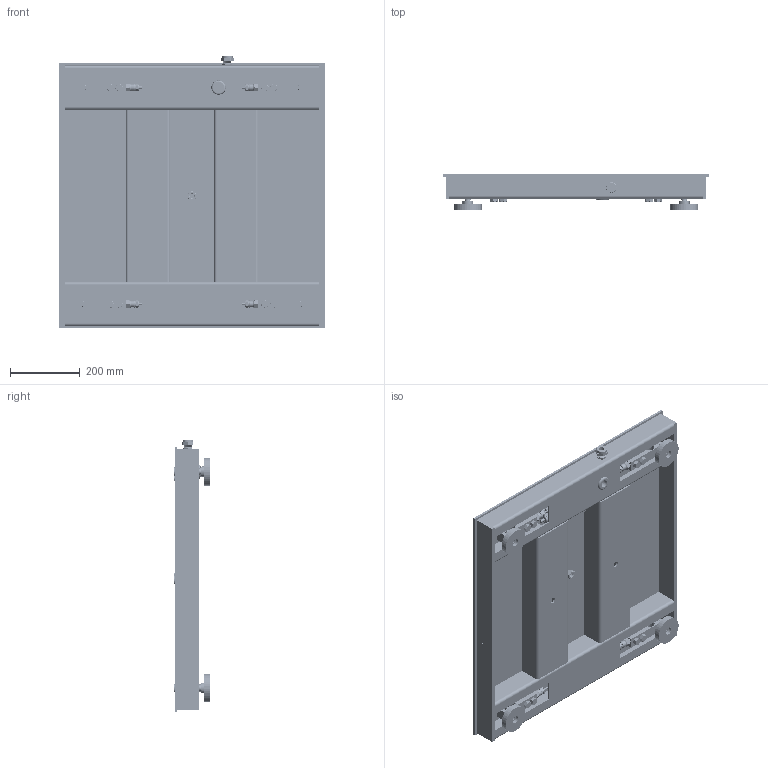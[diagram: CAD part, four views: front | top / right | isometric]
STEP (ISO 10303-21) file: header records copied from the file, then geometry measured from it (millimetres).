
FILE_DESCRIPTION (( 'STEP AP214' ), '1' );
FILE_NAME ('HIFS-3030 Series.STEP', '2019-10-17T17:06:02', ( '' ), ( '' ), 'SwSTEP 2.0', 'SolidWorks 2017', '' );
FILE_SCHEMA (( 'AUTOMOTIVE_DESIGN' ));
Length unit declared in the file: inch
Products named in the file (59): 900-100111; 0508-0918-001_ENCLOSURE; 5504-0012 threaded insert; 900-100128; smkds_1-9-3.5; HP-00007_SS; Pin 4-6362E-1 Rubber Foot; 2814-0095-0; 900-100115; 0529-0024-01-0; blind standoff_pmm_PEM BSO4-M3-6; 5504-0012; HI SBHF14-500-CELL; 0530-0825-01-0; 0530-0852-01-0; 0508-0918-001_ENCLOSURE ASSY; 2817-0188; 100-93838; 5504-0012 Rubber; HI SBHF14-500; Hex Nut - 5_8 - 11_SS; 2818-0128-0_91287A010; Gland; 91800A236_91800A236; HM-SS-500_SS; pan cross head_ai_CR-PHMS 0.138-32x0.25x0.25-C; Socket Countersunk Head Cap Screw - 1_4 - 20_0.75 SS; 6007-0097-0; PEM BSO4-632-10; HP-00012; 100-80340_SS; Adapter Nut; HP-00026_SS; flat washer type a selected narrow_ai_Selected Narrow FW 0.156; HIFS-3030 Series; 100-83367; Cable Adapter Nut; Mini Cable; Hex Bolt - 1_2 - 20_2.25 SS; 0508-0918-003_COVER_Default<As Machined>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
Assembly tree (107 placements, depth 6):
  HIFS-3030 Series
    100-93838
    HP-00026_SS
    100-80340_SS  x2
    100-82172_SS Smooth
    Socket Countersunk Head Cap Screw - 1_4 - 20_0.75 SS  x2
    Hex Nut - 5_8 - 11_SS
    HP-00012
    HP-00013
    100-83366  x2
    100-83367  x2
    0530-0825-01-0  x3
    900-100111
    800-000166
    900-100115
    900-100128  x5
    HM-SS-500_SS  x4
      HP-00007_SS
      HI SBHF14-500
        Mini Cable Adapter
          Mini Cable
          Gland
          Cable Adapter Nut
            Adapter Nut
          Cable Adapter
        HI SBHF14-500-CELL
      Hex Bolt - 1_2 - 20_2.25 SS
      5504-0012
        Pin 4-6362E-1 Rubber Foot
        93625A150_93625A150
        91800A236_91800A236
        ORING
        5504-0012 foot insert
        5504-0012 Rubber
        5504-0012 threaded insert
      HP-00003_SS
    HI 6011 ASSEMBLY
      0508-0918-01_ENCLOSURE ASSY
        0508-0918-001_ENCLOSURE ASSY
          0508-0918-001_ENCLOSURE
          blind standoff_pmm_PEM BSO4-M3-6  x8
          PEM BSO4-632-10  x4
        0508-0918-003_COVER_Default<As Machined>
        0508-0918-002_PLATE
      0524-0038-01-0
      0535-0575-XX-0 PWA
        0534-0575-01-0 PWB
        Phoenix_1751141
          smkds_1-7-3.5
        smkds_1-7-3.5  x3
        Phoenix_1751167
          smkds_1-9-3.5
      2817-0188  x4
        flat washer type a selected narrow_ai_Selected Narrow FW 0.156
        pan cross head_ai_CR-PHMS 0.138-32x0.25x0.25-C
      0529-0024-01-0  x5
      6007-0097-0  x5
      2814-0095-0  x5
      2818-0128-0_91287A010  x8
      0530-0852-01-0
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Bounding box: 762 x 102.3 x 784.23 mm (x, y, z)
Volume: 9274537.8 mm3; surface area: 3290318.3 mm2
Topology: 656 solids, 660 shells, 19961 faces, 50720 edges, 32888 vertices
Faces by surface type: plane 8631, bspline 6725, cylinder 2699, cone 1750, torus 140, sphere 16
Full cylindrical faces by diameter (mm): 10 x4
Entity records: 701747 total; most frequent: CARTESIAN_POINT 223889, ORIENTED_EDGE 74440, DIRECTION 43403, EDGE_CURVE 37220, VERTEX_POINT 24541, LINE 22709, VECTOR 22709, EDGE_LOOP 15229
